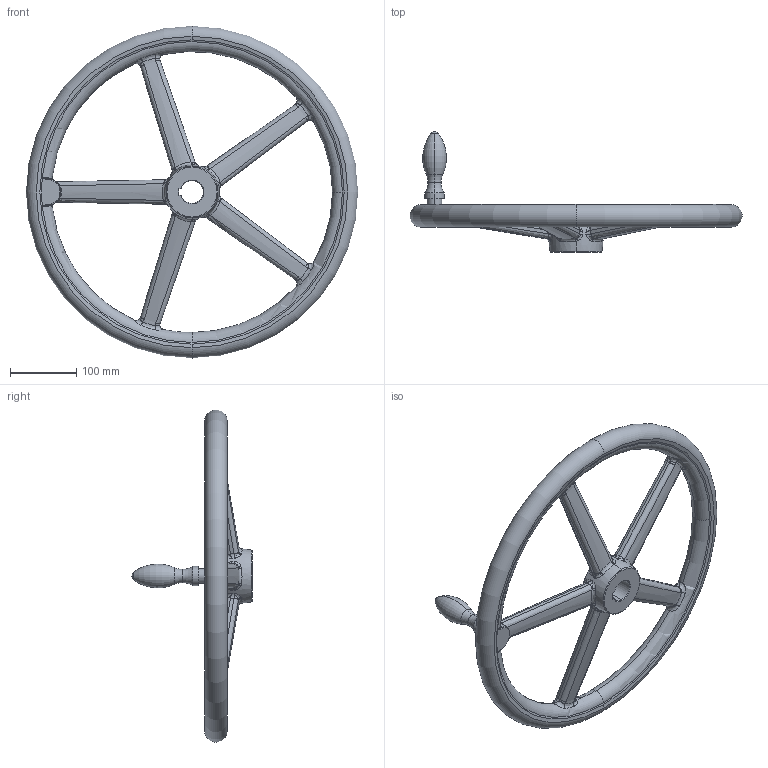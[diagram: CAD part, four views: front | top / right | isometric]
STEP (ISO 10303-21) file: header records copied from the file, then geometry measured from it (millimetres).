
FILE_DESCRIPTION (( 'STEP AP203' ), '1' );
FILE_NAME ('din950_f3_500x34.step', '2010-03-23T10:29:14', ( '_' ), ( '_' ), 'SwSTEP 2.0', 'SolidWorks 2010', '' );
FILE_SCHEMA (( 'CONFIG_CONTROL_DESIGN' ));
Length unit declared in the file: millimetre
Products named in the file (1): din950_f3_500x34
Bounding box: 499.87 x 182 x 499.87 mm (x, y, z)
Volume: 2288355.9 mm3; surface area: 275446 mm2
Topology: 1 solids, 1 shells, 292 faces, 726 edges, 385 vertices
Faces by surface type: bspline 218, torus 28, plane 18, cone 18, cylinder 8, sphere 2
Entity records: 64364 total; most frequent: CARTESIAN_POINT 58926, ORIENTED_EDGE 1364, DIRECTION 700, EDGE_CURVE 682, B_SPLINE_CURVE_WITH_KNOTS 391, VERTEX_POINT 385, AXIS2_PLACEMENT_3D 334, EDGE_LOOP 297
